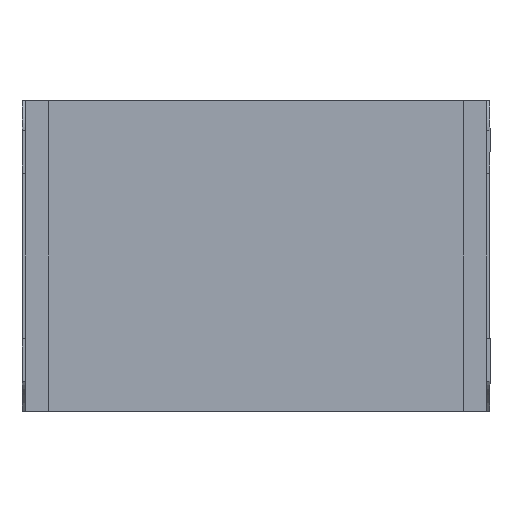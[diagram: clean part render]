
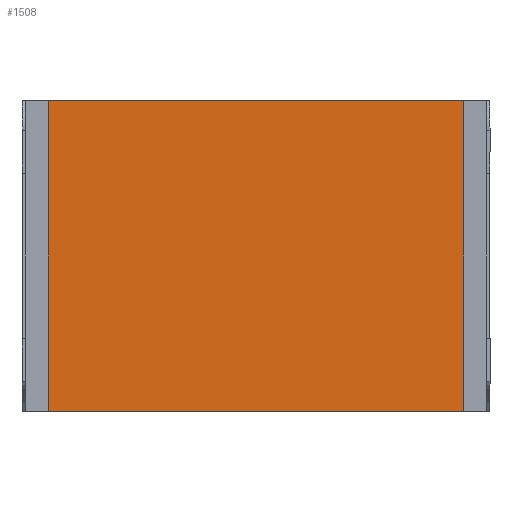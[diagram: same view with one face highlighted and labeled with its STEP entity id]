
A CAD part, front view. The second image highlights one B-rep face of the part: STEP entity #1508.
In plain terms, the highlighted planar face has unit normal (0, -1, 0).
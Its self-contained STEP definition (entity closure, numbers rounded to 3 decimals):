
#103 = LINE ( 'NONE', #1419, #104 ) ;
#104 = VECTOR ( 'NONE', #1368, 1000. ) ;
#135 = FACE_OUTER_BOUND ( 'NONE', #1220, .T. ) ;
#276 = CARTESIAN_POINT ( 'NONE',  ( -190.5, -68., 142.5 ) ) ;
#280 = DIRECTION ( 'NONE',  ( 0., 0., -1. ) ) ;
#306 = CARTESIAN_POINT ( 'NONE',  ( -190.5, -68., 142.5 ) ) ;
#324 = DIRECTION ( 'NONE',  ( 1., 0., 0. ) ) ;
#366 = ORIENTED_EDGE ( 'NONE', *, *, #699, .T. ) ;
#367 = ORIENTED_EDGE ( 'NONE', *, *, #625, .F. ) ;
#368 = ORIENTED_EDGE ( 'NONE', *, *, #568, .F. ) ;
#369 = ORIENTED_EDGE ( 'NONE', *, *, #611, .T. ) ;
#522 = AXIS2_PLACEMENT_3D ( 'NONE', #877, #869, #868 ) ;
#568 = EDGE_CURVE ( 'NONE', #1106, #1108, #800, .T. ) ;
#611 = EDGE_CURVE ( 'NONE', #1106, #1126, #774, .T. ) ;
#625 = EDGE_CURVE ( 'NONE', #1108, #1125, #747, .T. ) ;
#699 = EDGE_CURVE ( 'NONE', #1126, #1125, #103, .T. ) ;
#744 = VECTOR ( 'NONE', #1435, 1000. ) ;
#747 = LINE ( 'NONE', #1441, #744 ) ;
#771 = VECTOR ( 'NONE', #280, 1000. ) ;
#774 = LINE ( 'NONE', #276, #771 ) ;
#794 = VECTOR ( 'NONE', #324, 1000. ) ;
#800 = LINE ( 'NONE', #306, #794 ) ;
#868 = DIRECTION ( 'NONE',  ( -1., 0., 0. ) ) ;
#869 = DIRECTION ( 'NONE',  ( 0., 1., 0. ) ) ;
#877 = CARTESIAN_POINT ( 'NONE',  ( -190.5, -68., 142.5 ) ) ;
#878 = PLANE ( 'NONE',  #522 ) ;
#1106 = VERTEX_POINT ( 'NONE', #1299 ) ;
#1108 = VERTEX_POINT ( 'NONE', #1296 ) ;
#1125 = VERTEX_POINT ( 'NONE', #1277 ) ;
#1126 = VERTEX_POINT ( 'NONE', #1276 ) ;
#1220 = EDGE_LOOP ( 'NONE', ( #366, #367, #368, #369 ) ) ;
#1276 = CARTESIAN_POINT ( 'NONE',  ( -190.5, -68., -142.5 ) ) ;
#1277 = CARTESIAN_POINT ( 'NONE',  ( 190.5, -68., -142.5 ) ) ;
#1296 = CARTESIAN_POINT ( 'NONE',  ( 190.5, -68., 142.5 ) ) ;
#1299 = CARTESIAN_POINT ( 'NONE',  ( -190.5, -68., 142.5 ) ) ;
#1368 = DIRECTION ( 'NONE',  ( 1., 0., 0. ) ) ;
#1419 = CARTESIAN_POINT ( 'NONE',  ( -190.5, -68., -142.5 ) ) ;
#1435 = DIRECTION ( 'NONE',  ( 0., 0., -1. ) ) ;
#1441 = CARTESIAN_POINT ( 'NONE',  ( 190.5, -68., 142.5 ) ) ;
#1508 = ADVANCED_FACE ( 'NONE', ( #135 ), #878, .F. ) ;
